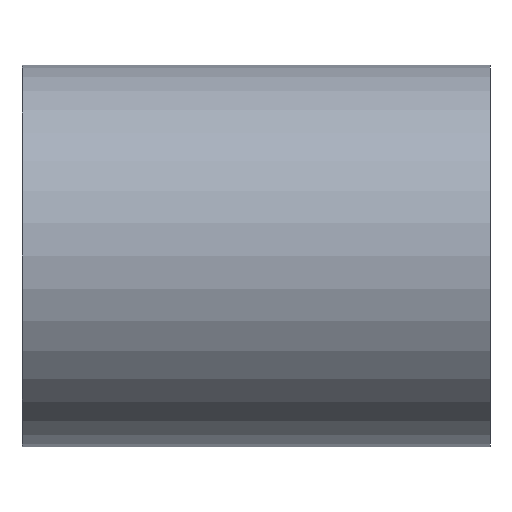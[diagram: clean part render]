
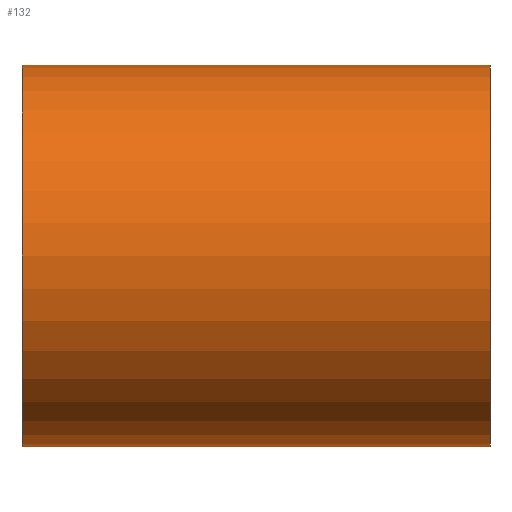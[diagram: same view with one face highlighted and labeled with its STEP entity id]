
A CAD part, front view. The second image highlights one B-rep face of the part: STEP entity #132.
In plain terms, the highlighted cylindrical face has radius 550 mm (diameter 1100 mm), a partial arc.
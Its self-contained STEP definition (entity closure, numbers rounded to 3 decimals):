
#132=ADVANCED_FACE('',(#260),#261,.T.);
#260=FACE_OUTER_BOUND('',#415,.T.);
#261=CYLINDRICAL_SURFACE('',#416,550.0);
#415=EDGE_LOOP('',(#739,#740,#741,#742));
#416=AXIS2_PLACEMENT_3D('',#743,#744,#745);
#739=ORIENTED_EDGE('',*,*,#827,.T.);
#740=ORIENTED_EDGE('',*,*,#968,.F.);
#741=ORIENTED_EDGE('',*,*,#829,.T.);
#742=ORIENTED_EDGE('',*,*,#969,.F.);
#743=CARTESIAN_POINT('',(0.0,0.0,0.0));
#744=DIRECTION('',(1.0,0.0,0.0));
#745=DIRECTION('',(0.0,0.0,-1.0));
#827=EDGE_CURVE('',#973,#974,#975,.T.);
#829=EDGE_CURVE('',#978,#976,#979,.T.);
#968=EDGE_CURVE('',#978,#974,#1186,.T.);
#969=EDGE_CURVE('',#973,#976,#1187,.T.);
#973=VERTEX_POINT('',#1191);
#974=VERTEX_POINT('',#1192);
#975=LINE('',#1193,#1194);
#976=VERTEX_POINT('',#1195);
#978=VERTEX_POINT('',#1197);
#979=LINE('',#1198,#1199);
#1186=CIRCLE('',#1440,550.0);
#1187=CIRCLE('',#1441,550.0);
#1191=CARTESIAN_POINT('',(-675.0,0.0,-550.0));
#1192=CARTESIAN_POINT('',(675.0,0.0,-550.0));
#1193=CARTESIAN_POINT('',(0.0,0.,-550.0));
#1194=VECTOR('',#1444,1.0);
#1195=CARTESIAN_POINT('',(-675.0,0.,550.0));
#1197=CARTESIAN_POINT('',(675.0,0.,550.0));
#1198=CARTESIAN_POINT('',(0.0,0.,550.0));
#1199=VECTOR('',#1448,1.0);
#1440=AXIS2_PLACEMENT_3D('',#1690,#1691,#1692);
#1441=AXIS2_PLACEMENT_3D('',#1693,#1694,#1695);
#1444=DIRECTION('',(1.0,0.0,0.0));
#1448=DIRECTION('',(-1.0,-0.0,-0.0));
#1690=CARTESIAN_POINT('',(675.0,0.0,0.0));
#1691=DIRECTION('',(1.0,0.0,0.0));
#1692=DIRECTION('',(0.0,0.0,-1.0));
#1693=CARTESIAN_POINT('',(-675.0,0.0,0.0));
#1694=DIRECTION('',(-1.0,0.0,0.0));
#1695=DIRECTION('',(0.0,0.0,-1.0));
